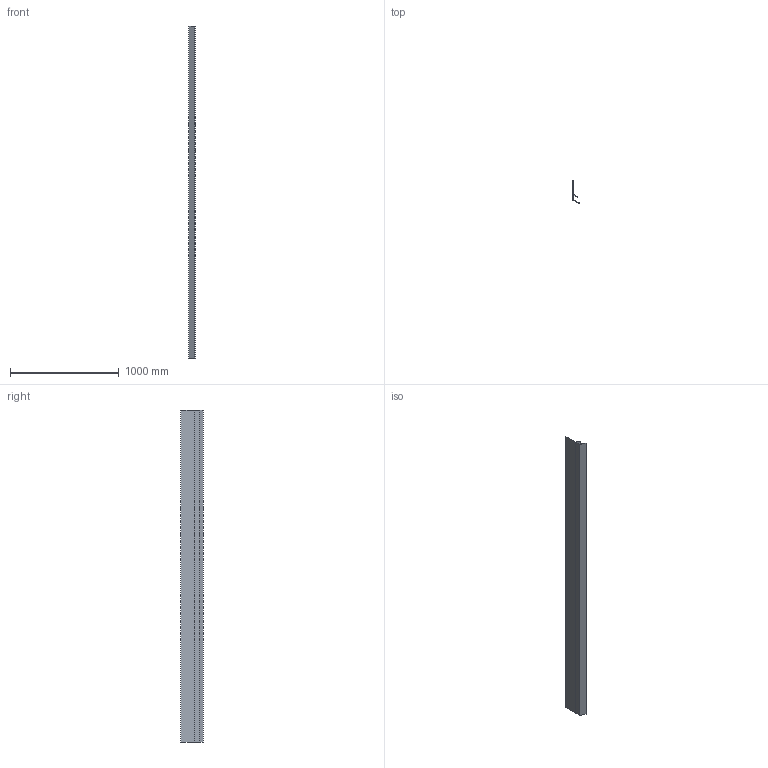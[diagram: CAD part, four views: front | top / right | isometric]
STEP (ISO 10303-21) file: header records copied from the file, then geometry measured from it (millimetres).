
FILE_DESCRIPTION (( 'STEP AP203' ), '1' );
FILE_NAME ('M41B.STEP', '2018-06-18T17:41:08', ( 'Michael Moliner' ), ( '' ), 'SwSTEP 2.0', 'SolidWorks 2018', '' );
FILE_SCHEMA (( 'CONFIG_CONTROL_DESIGN' ));
Length unit declared in the file: inch
Products named in the file (2): M41B
Bounding box: 55.25 x 206.01 x 3048 mm (x, y, z)
Volume: 521667.4 mm3; surface area: 2057247.7 mm2
Topology: 1 solids, 1 shells, 22 faces, 60 edges, 40 vertices
Faces by surface type: plane 16, cylinder 6
Entity records: 853 total; most frequent: CARTESIAN_POINT 124, DIRECTION 120, ORIENTED_EDGE 120, EDGE_CURVE 60, VECTOR 48, LINE 48, VERTEX_POINT 40, AXIS2_PLACEMENT_3D 36
